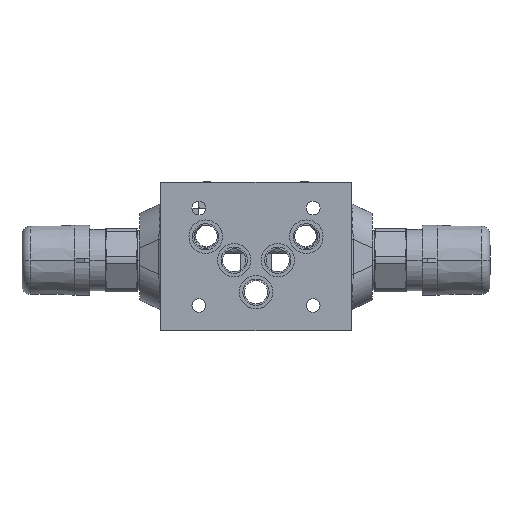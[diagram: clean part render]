
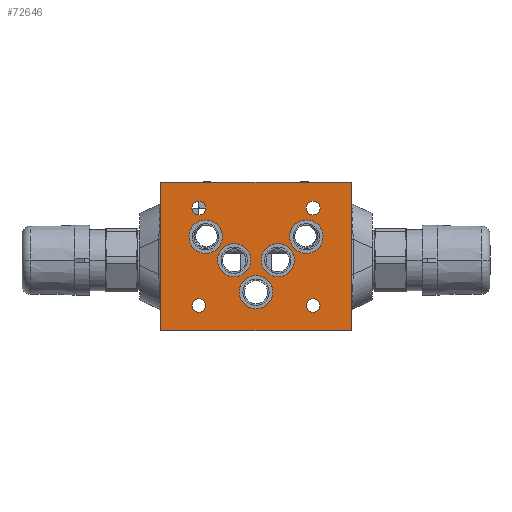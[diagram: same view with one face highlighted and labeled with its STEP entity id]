
A CAD part, front view. The second image highlights one B-rep face of the part: STEP entity #72646.
In plain terms, the highlighted planar face has unit normal (0, -1, 0).
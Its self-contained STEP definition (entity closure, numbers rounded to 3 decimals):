
#71965=CARTESIAN_POINT('',(28.,-0.4,72.));
#71966=DIRECTION('',(0.,-1.,0.));
#71967=DIRECTION('',(1.,0.,0.));
#71968=AXIS2_PLACEMENT_3D('',#71965,#71966,#71967);
#71973=CARTESIAN_POINT('',(28.,-0.4,72.));
#71974=DIRECTION('',(0.,-1.,0.));
#71975=DIRECTION('',(-1.,0.,0.));
#71976=AXIS2_PLACEMENT_3D('',#71973,#71974,#71975);
#71981=DIRECTION('',(1.,0.,0.));
#71982=VECTOR('',#71981,70.);
#71983=CARTESIAN_POINT('',(-30.,-0.4,90.));
#71984=LINE('',#71983,#71982);
#71988=DIRECTION('',(-1.,0.,0.));
#71989=VECTOR('',#71988,70.);
#71990=CARTESIAN_POINT('',(40.,-0.4,0.));
#71991=LINE('',#71990,#71989);
#71995=DIRECTION('',(0.,0.,1.));
#71996=VECTOR('',#71995,90.);
#71997=CARTESIAN_POINT('',(-30.,-0.4,0.));
#71998=LINE('',#71997,#71996);
#72002=CARTESIAN_POINT('',(28.,-0.4,18.));
#72003=DIRECTION('',(0.,-1.,0.));
#72004=DIRECTION('',(1.,0.,0.));
#72005=AXIS2_PLACEMENT_3D('',#72002,#72003,#72004);
#72010=CARTESIAN_POINT('',(28.,-0.4,18.));
#72011=DIRECTION('',(0.,-1.,0.));
#72012=DIRECTION('',(-1.,0.,0.));
#72013=AXIS2_PLACEMENT_3D('',#72010,#72011,#72012);
#72018=CARTESIAN_POINT('',(-18.,-0.4,18.));
#72019=DIRECTION('',(0.,-1.,0.));
#72020=DIRECTION('',(1.,0.,0.));
#72021=AXIS2_PLACEMENT_3D('',#72018,#72019,#72020);
#72026=CARTESIAN_POINT('',(-18.,-0.4,18.));
#72027=DIRECTION('',(0.,-1.,0.));
#72028=DIRECTION('',(-1.,0.,0.));
#72029=AXIS2_PLACEMENT_3D('',#72026,#72027,#72028);
#72034=CARTESIAN_POINT('',(-18.,-0.4,72.));
#72035=DIRECTION('',(0.,-1.,0.));
#72036=DIRECTION('',(1.,0.,0.));
#72037=AXIS2_PLACEMENT_3D('',#72034,#72035,#72036);
#72042=CARTESIAN_POINT('',(-18.,-0.4,72.));
#72043=DIRECTION('',(0.,-1.,0.));
#72044=DIRECTION('',(-1.,0.,0.));
#72045=AXIS2_PLACEMENT_3D('',#72042,#72043,#72044);
#72050=CARTESIAN_POINT('',(14.5,-0.4,68.8));
#72051=DIRECTION('',(0.,-1.,0.));
#72052=DIRECTION('',(0.,0.,-1.));
#72053=AXIS2_PLACEMENT_3D('',#72050,#72051,#72052);
#72058=CARTESIAN_POINT('',(14.5,-0.4,68.8));
#72059=DIRECTION('',(0.,-1.,0.));
#72060=DIRECTION('',(0.,0.,1.));
#72061=AXIS2_PLACEMENT_3D('',#72058,#72059,#72060);
#72066=CARTESIAN_POINT('',(3.4,-0.4,55.3));
#72067=DIRECTION('',(0.,-1.,0.));
#72068=DIRECTION('',(0.,0.,-1.));
#72069=AXIS2_PLACEMENT_3D('',#72066,#72067,#72068);
#72074=CARTESIAN_POINT('',(3.4,-0.4,55.3));
#72075=DIRECTION('',(0.,-1.,0.));
#72076=DIRECTION('',(0.,0.,1.));
#72077=AXIS2_PLACEMENT_3D('',#72074,#72075,#72076);
#72082=CARTESIAN_POINT('',(-11.7,-0.4,45.));
#72083=DIRECTION('',(0.,-1.,0.));
#72084=DIRECTION('',(0.,0.,-1.));
#72085=AXIS2_PLACEMENT_3D('',#72082,#72083,#72084);
#72090=CARTESIAN_POINT('',(-11.7,-0.4,45.));
#72091=DIRECTION('',(0.,-1.,0.));
#72092=DIRECTION('',(0.,0.,1.));
#72093=AXIS2_PLACEMENT_3D('',#72090,#72091,#72092);
#72098=CARTESIAN_POINT('',(3.4,-0.4,34.7));
#72099=DIRECTION('',(0.,-1.,0.));
#72100=DIRECTION('',(0.,0.,-1.));
#72101=AXIS2_PLACEMENT_3D('',#72098,#72099,#72100);
#72106=CARTESIAN_POINT('',(3.4,-0.4,34.7));
#72107=DIRECTION('',(0.,-1.,0.));
#72108=DIRECTION('',(0.,0.,1.));
#72109=AXIS2_PLACEMENT_3D('',#72106,#72107,#72108);
#72114=CARTESIAN_POINT('',(14.5,-0.4,21.2));
#72115=DIRECTION('',(0.,-1.,0.));
#72116=DIRECTION('',(0.,0.,-1.));
#72117=AXIS2_PLACEMENT_3D('',#72114,#72115,#72116);
#72122=CARTESIAN_POINT('',(14.5,-0.4,21.2));
#72123=DIRECTION('',(0.,-1.,0.));
#72124=DIRECTION('',(0.,0.,1.));
#72125=AXIS2_PLACEMENT_3D('',#72122,#72123,#72124);
#72302=DIRECTION('',(0.,0.,1.));
#72303=VECTOR('',#72302,90.);
#72304=CARTESIAN_POINT('',(40.,-0.4,0.));
#72305=LINE('',#72304,#72303);
#72456=CARTESIAN_POINT('',(40.,-0.4,0.));
#72458=VERTEX_POINT('',#72456);
#72464=CARTESIAN_POINT('',(-30.,-0.4,0.));
#72465=VERTEX_POINT('',#72464);
#72466=CARTESIAN_POINT('',(40.,-0.4,90.));
#72468=VERTEX_POINT('',#72466);
#72474=CARTESIAN_POINT('',(-30.,-0.4,90.));
#72475=VERTEX_POINT('',#72474);
#72476=CARTESIAN_POINT('',(31.25,-0.4,72.));
#72477=CARTESIAN_POINT('',(24.75,-0.4,72.));
#72478=VERTEX_POINT('',#72476);
#72479=VERTEX_POINT('',#72477);
#72484=CARTESIAN_POINT('',(31.25,-0.4,18.));
#72485=CARTESIAN_POINT('',(24.75,-0.4,18.));
#72486=VERTEX_POINT('',#72484);
#72487=VERTEX_POINT('',#72485);
#72492=CARTESIAN_POINT('',(-14.75,-0.4,18.));
#72493=CARTESIAN_POINT('',(-21.25,-0.4,18.));
#72494=VERTEX_POINT('',#72492);
#72495=VERTEX_POINT('',#72493);
#72500=CARTESIAN_POINT('',(-14.75,-0.4,72.));
#72501=CARTESIAN_POINT('',(-21.25,-0.4,72.));
#72502=VERTEX_POINT('',#72500);
#72503=VERTEX_POINT('',#72501);
#72508=CARTESIAN_POINT('',(14.5,-0.4,61.));
#72509=CARTESIAN_POINT('',(14.5,-0.4,76.6));
#72510=VERTEX_POINT('',#72508);
#72511=VERTEX_POINT('',#72509);
#72512=CARTESIAN_POINT('',(3.4,-0.4,47.5));
#72513=CARTESIAN_POINT('',(3.4,-0.4,63.1));
#72514=VERTEX_POINT('',#72512);
#72515=VERTEX_POINT('',#72513);
#72516=CARTESIAN_POINT('',(-11.7,-0.4,37.2));
#72517=CARTESIAN_POINT('',(-11.7,-0.4,52.8));
#72518=VERTEX_POINT('',#72516);
#72519=VERTEX_POINT('',#72517);
#72520=CARTESIAN_POINT('',(3.4,-0.4,26.9));
#72521=CARTESIAN_POINT('',(3.4,-0.4,42.5));
#72522=VERTEX_POINT('',#72520);
#72523=VERTEX_POINT('',#72521);
#72524=CARTESIAN_POINT('',(14.5,-0.4,13.4));
#72525=CARTESIAN_POINT('',(14.5,-0.4,29.));
#72526=VERTEX_POINT('',#72524);
#72527=VERTEX_POINT('',#72525);
#72578=CARTESIAN_POINT('',(-30.,-0.4,0.));
#72579=DIRECTION('',(0.,-1.,0.));
#72580=DIRECTION('',(1.,0.,0.));
#72581=AXIS2_PLACEMENT_3D('',#72578,#72579,#72580);
#72582=PLANE('',#72581);
#72584=ORIENTED_EDGE('',*,*,#72583,.T.);
#72586=ORIENTED_EDGE('',*,*,#72585,.F.);
#72587=ORIENTED_EDGE('',*,*,#72553,.T.);
#72589=ORIENTED_EDGE('',*,*,#72588,.T.);
#72590=EDGE_LOOP('',(#72584,#72586,#72587,#72589));
#72591=FACE_OUTER_BOUND('',#72590,.F.);
#72593=ORIENTED_EDGE('',*,*,#72592,.T.);
#72595=ORIENTED_EDGE('',*,*,#72594,.T.);
#72596=EDGE_LOOP('',(#72593,#72595));
#72597=FACE_BOUND('',#72596,.F.);
#72599=ORIENTED_EDGE('',*,*,#72598,.T.);
#72601=ORIENTED_EDGE('',*,*,#72600,.T.);
#72602=EDGE_LOOP('',(#72599,#72601));
#72603=FACE_BOUND('',#72602,.F.);
#72605=ORIENTED_EDGE('',*,*,#72604,.T.);
#72607=ORIENTED_EDGE('',*,*,#72606,.T.);
#72608=EDGE_LOOP('',(#72605,#72607));
#72609=FACE_BOUND('',#72608,.F.);
#72611=ORIENTED_EDGE('',*,*,#72610,.T.);
#72613=ORIENTED_EDGE('',*,*,#72612,.T.);
#72614=EDGE_LOOP('',(#72611,#72613));
#72615=FACE_BOUND('',#72614,.F.);
#72617=ORIENTED_EDGE('',*,*,#72616,.T.);
#72619=ORIENTED_EDGE('',*,*,#72618,.T.);
#72620=EDGE_LOOP('',(#72617,#72619));
#72621=FACE_BOUND('',#72620,.F.);
#72623=ORIENTED_EDGE('',*,*,#72622,.T.);
#72625=ORIENTED_EDGE('',*,*,#72624,.T.);
#72626=EDGE_LOOP('',(#72623,#72625));
#72627=FACE_BOUND('',#72626,.F.);
#72629=ORIENTED_EDGE('',*,*,#72628,.T.);
#72631=ORIENTED_EDGE('',*,*,#72630,.T.);
#72632=EDGE_LOOP('',(#72629,#72631));
#72633=FACE_BOUND('',#72632,.F.);
#72635=ORIENTED_EDGE('',*,*,#72634,.T.);
#72637=ORIENTED_EDGE('',*,*,#72636,.T.);
#72638=EDGE_LOOP('',(#72635,#72637));
#72639=FACE_BOUND('',#72638,.F.);
#72641=ORIENTED_EDGE('',*,*,#72640,.T.);
#72643=ORIENTED_EDGE('',*,*,#72642,.T.);
#72644=EDGE_LOOP('',(#72641,#72643));
#72645=FACE_BOUND('',#72644,.F.);
#71969=CIRCLE('',#71968,3.25);
#71977=CIRCLE('',#71976,3.25);
#72006=CIRCLE('',#72005,3.25);
#72014=CIRCLE('',#72013,3.25);
#72022=CIRCLE('',#72021,3.25);
#72030=CIRCLE('',#72029,3.25);
#72038=CIRCLE('',#72037,3.25);
#72046=CIRCLE('',#72045,3.25);
#72054=CIRCLE('',#72053,7.8);
#72062=CIRCLE('',#72061,7.8);
#72070=CIRCLE('',#72069,7.8);
#72078=CIRCLE('',#72077,7.8);
#72086=CIRCLE('',#72085,7.8);
#72094=CIRCLE('',#72093,7.8);
#72102=CIRCLE('',#72101,7.8);
#72110=CIRCLE('',#72109,7.8);
#72118=CIRCLE('',#72117,7.8);
#72126=CIRCLE('',#72125,7.8);
#72553=EDGE_CURVE('',#72458,#72465,#71991,.T.);
#72583=EDGE_CURVE('',#72475,#72468,#71984,.T.);
#72585=EDGE_CURVE('',#72458,#72468,#72305,.T.);
#72588=EDGE_CURVE('',#72465,#72475,#71998,.T.);
#72592=EDGE_CURVE('',#72478,#72479,#71969,.T.);
#72594=EDGE_CURVE('',#72479,#72478,#71977,.T.);
#72598=EDGE_CURVE('',#72486,#72487,#72006,.T.);
#72600=EDGE_CURVE('',#72487,#72486,#72014,.T.);
#72604=EDGE_CURVE('',#72494,#72495,#72022,.T.);
#72606=EDGE_CURVE('',#72495,#72494,#72030,.T.);
#72610=EDGE_CURVE('',#72502,#72503,#72038,.T.);
#72612=EDGE_CURVE('',#72503,#72502,#72046,.T.);
#72616=EDGE_CURVE('',#72510,#72511,#72054,.T.);
#72618=EDGE_CURVE('',#72511,#72510,#72062,.T.);
#72622=EDGE_CURVE('',#72514,#72515,#72070,.T.);
#72624=EDGE_CURVE('',#72515,#72514,#72078,.T.);
#72628=EDGE_CURVE('',#72518,#72519,#72086,.T.);
#72630=EDGE_CURVE('',#72519,#72518,#72094,.T.);
#72634=EDGE_CURVE('',#72522,#72523,#72102,.T.);
#72636=EDGE_CURVE('',#72523,#72522,#72110,.T.);
#72640=EDGE_CURVE('',#72526,#72527,#72118,.T.);
#72642=EDGE_CURVE('',#72527,#72526,#72126,.T.);
#72646=ADVANCED_FACE('',(#72591,#72597,#72603,#72609,#72615,#72621,#72627,
#72633,#72639,#72645),#72582,.T.);
